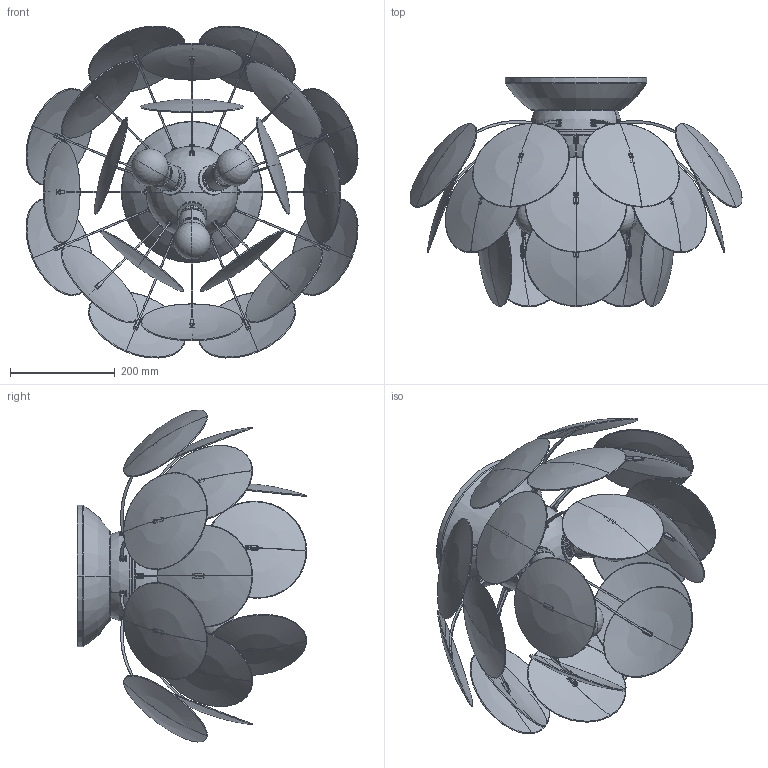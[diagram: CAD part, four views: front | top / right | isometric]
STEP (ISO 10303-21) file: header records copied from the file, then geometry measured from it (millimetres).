
FILE_DESCRIPTION((''),'2;1');
FILE_NAME('DISCOCO_68_C_ASM','2014-07-17T',('oftec'),(''),'PRO/ENGINEER BY PARAMETRIC TECHNOLOGY CORPORATION, 2012130','PRO/ENGINEER BY PARAMETRIC TECHNOLOGY CORPORATION, 2012130','');
FILE_SCHEMA(('CONFIG_CONTROL_DESIGN'));
Length unit declared in the file: millimetre
Products named in the file (12): 620-064; E27_THREAD; NUT_E27; OSRAM_DULUX_SUPSTAR; E27_ASM_ASM; 620-066; 620-065; 620-067; 620-068; DISCK_PLUS_ARM_ASM; 620-072; DISCOCO_68_C_ASM
Assembly tree (56 placements, depth 3):
  DISCOCO_68_C_ASM
    620-064
    E27_ASM_ASM  x3
      E27_THREAD
      NUT_E27
      OSRAM_DULUX_SUPSTAR
    620-066  x21
    620-065
    DISCK_PLUS_ARM_ASM  x21
      620-067
      620-068
    OSRAM_DULUX_SUPSTAR  x3
    620-072
Bounding box: 634.05 x 438.09 x 634.05 mm (x, y, z)
Volume: 5631392 mm3; surface area: 1964433.2 mm2
Topology: 78 solids, 78 shells, 4793 faces, 12581 edges, 7943 vertices
Faces by surface type: plane 2304, cylinder 1466, torus 460, bspline 425, sphere 108, cone 30
Entity records: 35180 total; most frequent: CARTESIAN_POINT 12755, ORIENTED_EDGE 4718, DIRECTION 4516, EDGE_CURVE 2359, AXIS2_PLACEMENT_3D 1583, VERTEX_POINT 1532, VECTOR 1350, LINE 1350
